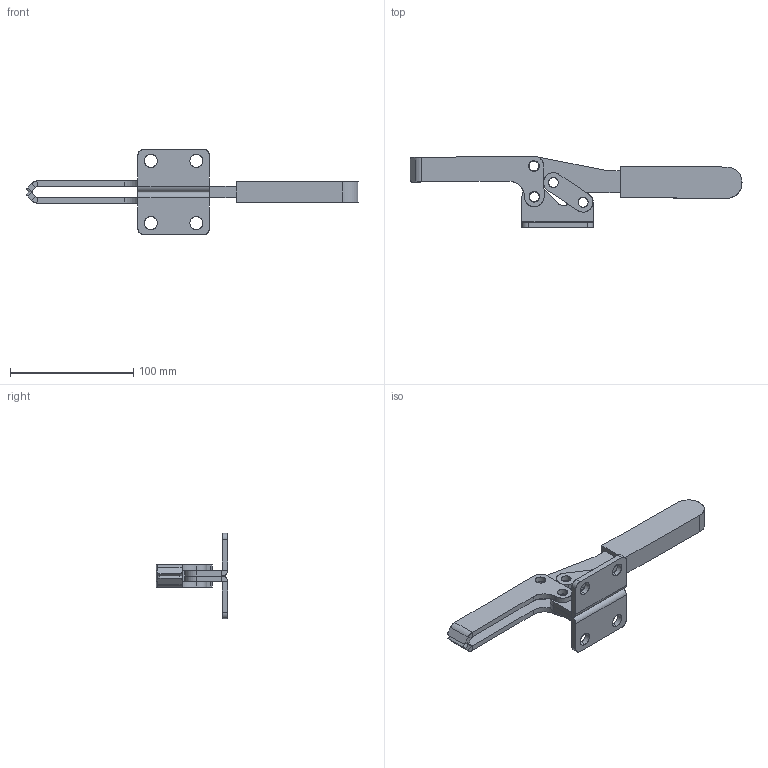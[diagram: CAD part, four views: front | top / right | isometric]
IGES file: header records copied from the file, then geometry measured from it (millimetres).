
Start section: SolidWorks IGES file using analytic representation for surfaces
Global section: file name: D:\GH Files\GH-SW-FILES\GH2\21384\21384.IGS; native system: SolidWorks 2007; preprocessor: SolidWorks 2007; author: Administrator; date: 061018.164709; units: millimetre
Bounding box: 269.89 x 58.1 x 69.5 mm (x, y, z)
Surface area: 55564 mm2 (no closed solid volume)
Topology: 0 solids, 0 shells, 160 faces, 2534 edges, 2534 vertices
Faces by surface type: revolution 80, bspline 80
